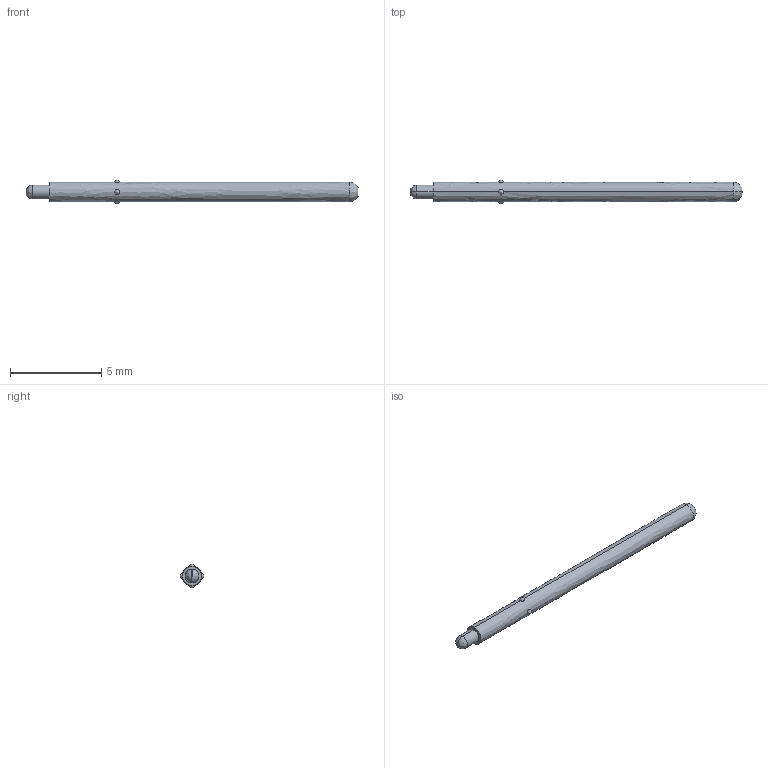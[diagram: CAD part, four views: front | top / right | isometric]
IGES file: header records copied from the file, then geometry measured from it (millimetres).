
Start section: SolidWorks IGES file using analytic representation for surfaces
Global section: file name: O:\PYLON\IGES FILES\P2663\P2663G-1R1S FULL.IGS; native system: SolidWorks 2015; preprocessor: SolidWorks 2015; author: kgolden; date: 171019.102740; units: inch
Bounding box: 18.24 x 1.32 x 1.32 mm (x, y, z)
Surface area: 65.4 mm2 (no closed solid volume)
Topology: 0 solids, 0 shells, 21 faces, 236 edges, 220 vertices
Faces by surface type: revolution 14, bspline 7
